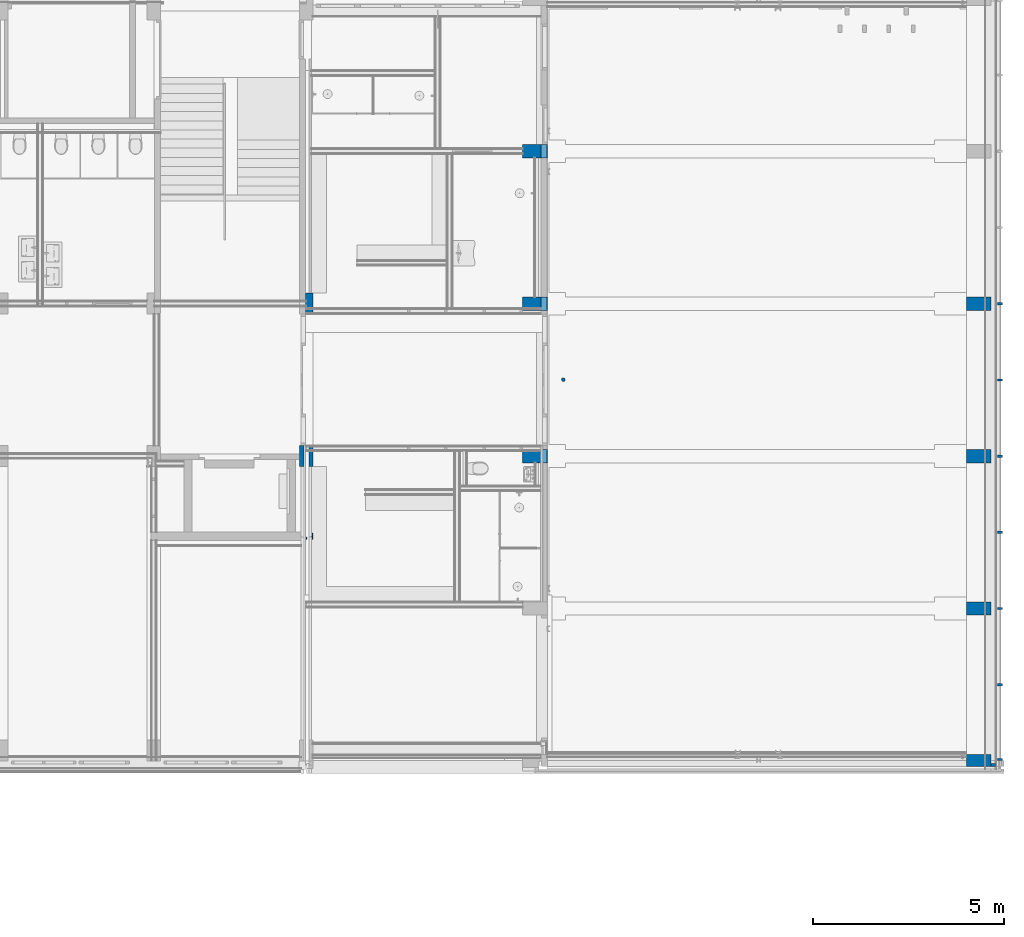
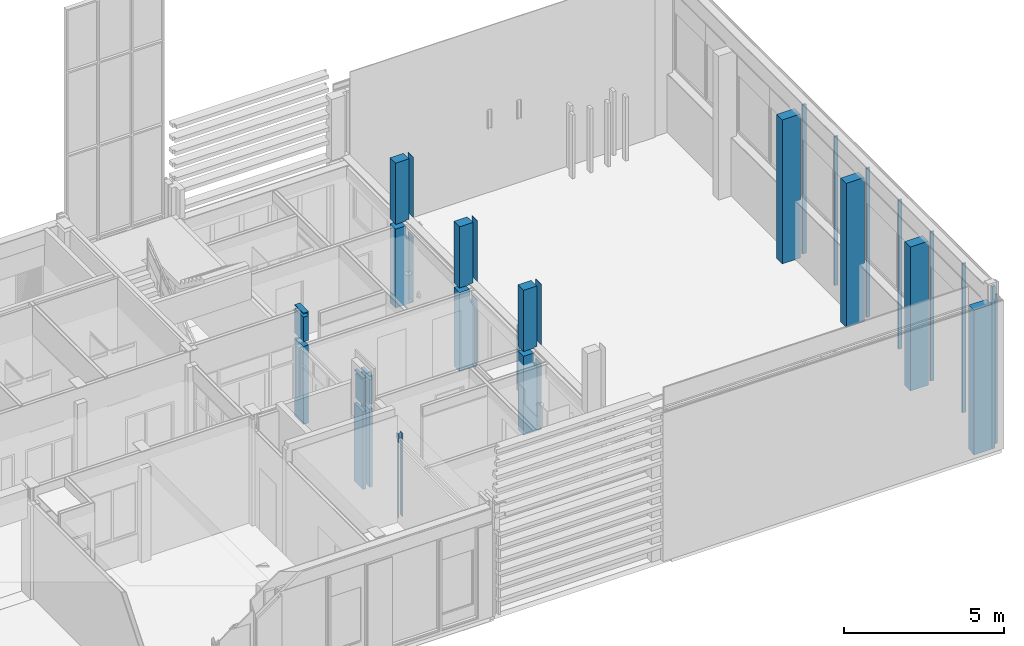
# One storey, part 7 of 109: 19 columns.
"""IFC2X3 building model written with IfcOpenShell, lengths in millimetres."""

from ifc_helpers import new_model, entity, si_unit, converted_unit, derived_unit, money_unit, direction, frame, origin_with_axes, place, context, subcontext, project, spatial, faceted_brep, material, type_object, element, save


model = new_model("IFC2X3")

# Units and contexts
model_context = context("Model", 3, precision=0.01, world=origin_with_axes(), true_north=direction((0.0, 1.0)))
body_context = subcontext(model_context, "Body", "Model", "MODEL_VIEW")
ifc_project = project(units=[si_unit("LENGTHUNIT", "METRE", prefix="MILLI"), si_unit("AREAUNIT", "SQUARE_METRE"), si_unit("VOLUMEUNIT", "CUBIC_METRE"), converted_unit("PLANEANGLEUNIT", "DEGREE", entity("IfcPlaneAngleMeasure", 0.0174532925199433), si_unit("PLANEANGLEUNIT", "RADIAN"), dimensions=[0, 0, 0, 0, 0, 0, 0]), money_unit("EUR"), converted_unit("TIMEUNIT", "Year", entity("IfcTimeMeasure", 31557600.0), si_unit("TIMEUNIT", "SECOND"), dimensions=[0, 0, 1, 0, 0, 0, 0]), si_unit("MASSUNIT", "GRAM", prefix="KILO"), si_unit("THERMODYNAMICTEMPERATUREUNIT", "DEGREE_CELSIUS"), si_unit("LUMINOUSINTENSITYUNIT", "LUMEN"), si_unit("ENERGYUNIT", "JOULE", prefix="MEGA"), derived_unit("THERMALCONDUCTANCEUNIT", [(si_unit("POWERUNIT", "WATT"), 1), (si_unit("LENGTHUNIT", "METRE"), -1), (si_unit("THERMODYNAMICTEMPERATUREUNIT", "KELVIN"), -1)]), derived_unit("SPECIFICHEATCAPACITYUNIT", [(si_unit("ENERGYUNIT", "JOULE"), 1), (si_unit("MASSUNIT", "GRAM", prefix="KILO"), -1), (si_unit("THERMODYNAMICTEMPERATUREUNIT", "KELVIN"), -1)]), derived_unit("MASSDENSITYUNIT", [(si_unit("MASSUNIT", "GRAM", prefix="KILO"), 1), (si_unit("VOLUMEUNIT", "CUBIC_METRE"), -1)])], contexts=[model_context])

# Site, building, storey
site_placement = place(None, origin_with_axes())
site = spatial("IfcSite", under=ifc_project, at=site_placement, Name="<site naam>", CompositionType="ELEMENT")
building_placement = place(site_placement, origin_with_axes())
building = spatial("IfcBuilding", under=site, at=building_placement, Name="<Naam gebouw>", CompositionType="ELEMENT")
storey_placement = place(building_placement, origin_with_axes())
storey = spatial("IfcBuildingStorey", under=building, at=storey_placement, Name="00 Begane grond", CompositionType="ELEMENT", Elevation=0.0)

# Columns
ifc_material_1 = material(Name="betonblok C")
column_type_1 = type_object("IfcColumnType", Name="betonblok C 350 x 550", PredefinedType="COLUMN")
column_1_placement = place(storey_placement, frame((52000.00000000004, 8000.000000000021, 0.0), z_axis=(0.0, 0.0, 1.0), x_axis=(1.0, 0.0, 0.0)))
element("IfcColumn", 1, at=column_1_placement, inside=storey, type_object=column_type_1, material=ifc_material_1, Name="28_Kolom_betonblok", ObjectType="COLUMN", context=body_context, shape_type="Brep", body=[
    faceted_brep([(-65.00000000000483, 274.9999999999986, 3158.0), (-136.1294846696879, 274.9999999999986, 3158.0), (-136.1294846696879, 274.9999999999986, 4100.0), (-65.00000000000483, 274.9999999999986, 4100.0), (-65.00000000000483, -275.0000000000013, 3158.0), (-136.1294846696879, -275.0000000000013, 3158.0), (-136.1294846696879, -275.0000000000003, 4100.0), (-65.00000000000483, -275.0000000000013, 4100.0)], [[[0, 1, 2, 3]], [[4, 5, 1, 0]], [[5, 6, 2, 1]], [[3, 2, 6, 7]], [[4, 0, 3, 7]], [[7, 6, 5, 4]]]),
    faceted_brep([(-174.9999999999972, 274.9999999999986, 0.0), (-174.9999999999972, 275.0000000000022, 2978.0), (-65.00000000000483, 274.9999999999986, 2978.0), (-65.00000000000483, 274.9999999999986, 0.0), (-174.9999999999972, -275.0000000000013, 0.0), (-174.9999999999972, -275.0000000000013, 2978.0), (-65.00000000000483, -275.0000000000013, 2978.0), (-65.00000000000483, -275.0000000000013, 0.0)], [[[0, 1, 2, 3]], [[4, 5, 1, 0]], [[5, 6, 2, 1]], [[3, 2, 6, 7]], [[4, 0, 3, 7]], [[7, 6, 5, 4]]]),
    faceted_brep([(64.99999999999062, 275.0000000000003, 0.0), (64.99999999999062, 275.0000000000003, 2978.0), (174.9999999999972, 275.0000000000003, 2978.0), (174.9999999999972, 275.0000000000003, 0.0), (64.99999999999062, -275.0000000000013, 0.0), (64.99999999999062, -275.0000000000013, 2978.0), (174.9999999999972, -275.0000000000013, 2978.0), (174.9999999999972, -275.0000000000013, 0.0)], [[[0, 1, 2, 3]], [[4, 5, 1, 0]], [[5, 6, 2, 1]], [[3, 2, 6, 7]], [[3, 7, 4, 0]], [[7, 6, 5, 4]]]),
    faceted_brep([(-65.00000000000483, -275.0000000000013, 4250.0), (-65.00000000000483, -275.0000000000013, 4220.0), (-65.00000000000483, 274.9999999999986, 4220.0), (-65.00000000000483, 274.9999999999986, 4250.0), (-174.9999999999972, -275.0000000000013, 4250.0), (-174.9999999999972, -275.0000000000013, 4220.0), (-174.9999999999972, 274.9999999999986, 4220.0), (-174.9999999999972, 274.9999999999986, 4250.0)], [[[0, 1, 2, 3]], [[4, 5, 1, 0]], [[5, 6, 2, 1]], [[3, 2, 6, 7]], [[7, 4, 0, 3]], [[7, 6, 5, 4]]]),
    faceted_brep([(64.99999999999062, 275.0000000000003, 3158.0), (64.99999999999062, 275.0000000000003, 4100.0), (174.3999999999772, 275.0000000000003, 4100.0), (174.3999999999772, 275.0000000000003, 4220.0), (64.99999999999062, 275.0000000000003, 4220.0), (64.99999999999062, 275.0000000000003, 4250.0), (174.9999999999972, 275.0000000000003, 4250.0), (174.9999999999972, 275.0000000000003, 3158.0), (64.99999999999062, -275.0000000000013, 3158.0), (64.99999999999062, -275.0000000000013, 4100.0), (174.3999999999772, -275.0000000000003, 4100.0), (174.3999999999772, -275.0000000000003, 4220.0), (64.99999999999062, -275.0000000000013, 4220.0), (64.99999999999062, -275.0000000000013, 4250.0), (174.9999999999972, -275.0000000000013, 4250.0), (174.9999999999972, -275.0000000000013, 3158.0)], [[[0, 1, 2, 3, 4, 5, 6, 7]], [[8, 9, 1, 0]], [[10, 2, 1, 9]], [[11, 3, 2, 10]], [[12, 4, 3, 11]], [[5, 4, 12, 13]], [[14, 6, 5, 13]], [[14, 15, 7, 6]], [[8, 0, 7, 15]], [[11, 10, 9, 8, 15, 14, 13, 12]]]),
])
column_2_placement = place(storey_placement, frame((52000.00000000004, 12000.00000000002, 0.0), z_axis=(0.0, 0.0, 1.0), x_axis=(1.0, 0.0, 0.0)))
element("IfcColumn", 2, at=column_2_placement, inside=storey, type_object=column_type_1, material=ifc_material_1, Name="28_Kolom_betonblok", ObjectType="COLUMN", context=body_context, shape_type="Brep", body=[
    faceted_brep([(-15.00000000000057, 274.9999999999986, 0.0), (-15.00000000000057, 274.9999999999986, 2978.0), (174.9999999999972, 275.0000000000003, 2978.0), (174.9999999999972, 275.0000000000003, 0.0), (-15.00000000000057, -275.0000000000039, 0.0), (-15.00000000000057, -275.0000000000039, 2978.0), (174.9999999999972, -275.0000000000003, 2978.0), (174.9999999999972, -275.0000000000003, 0.0)], [[[0, 1, 2, 3]], [[4, 5, 1, 0]], [[5, 6, 2, 1]], [[3, 2, 6, 7]], [[3, 7, 4, 0]], [[7, 6, 5, 4]]]),
    faceted_brep([(-15.00000000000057, 274.9999999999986, 3158.0), (-15.00000000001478, 274.9999999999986, 4100.0), (174.3999999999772, 275.0000000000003, 4100.0), (174.3999999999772, 275.0000000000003, 4220.0), (-15.00000000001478, 274.9999999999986, 4220.0), (-15.00000000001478, 274.9999999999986, 4250.0), (174.9999999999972, 275.0000000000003, 4250.0), (174.9999999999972, 275.0000000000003, 3158.0), (-15.00000000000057, -275.0000000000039, 3158.0), (-15.00000000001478, -274.9999999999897, 4100.0), (174.3999999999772, -275.0000000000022, 4100.0), (174.3999999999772, -275.0000000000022, 4220.0), (-15.00000000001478, -274.9999999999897, 4220.0), (-15.00000000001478, -274.9999999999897, 4250.0), (174.9999999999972, -275.0000000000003, 4250.0), (174.9999999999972, -275.0000000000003, 3158.0)], [[[0, 1, 2, 3, 4, 5, 6, 7]], [[8, 9, 1, 0]], [[10, 2, 1, 9]], [[11, 3, 2, 10]], [[12, 4, 3, 11]], [[5, 4, 12, 13]], [[14, 6, 5, 13]], [[14, 15, 7, 6]], [[8, 0, 7, 15]], [[11, 10, 9, 8, 15, 14, 13, 12]]]),
])
column_type_2 = type_object("IfcColumnType", Name="betonblok C 350 x 650", PredefinedType="COLUMN")
column_3_placement = place(storey_placement, frame((69650.0, 0.0, -30.0), z_axis=(0.0, 0.0, 1.0), x_axis=(0.0, -1.0, 0.0)))
element("IfcColumn", 3, at=column_3_placement, inside=storey, type_object=column_type_2, material=ifc_material_1, Name="28_Kolom_betonblok", ObjectType="COLUMN", context=body_context, shape_type="Brep", body=[
    faceted_brep([(-175.0000000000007, -325.0000000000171, 30.0), (-175.0000000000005, -325.0000000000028, 5524.999999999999), (-175.0000000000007, 325.0000000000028, 5524.999999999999), (-175.0000000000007, 325.0000000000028, 30.0), (149.0893218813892, -325.0000000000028, 0.0), (149.0893224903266, -325.0000000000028, 5524.999999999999), (-10.91067811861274, -325.0000000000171, 30.0), (-10.91067811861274, -325.0000000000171, 0.0), (149.0893218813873, 325.0000000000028, 5524.999999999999), (149.0893218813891, 325.0000000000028, 0.0), (-10.91067811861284, 325.0000000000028, 0.0), (-10.91067811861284, 325.0000000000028, 30.0)], [[[0, 1, 2, 3]], [[4, 5, 1, 0, 6, 7]], [[5, 8, 2, 1]], [[3, 2, 8, 9, 10, 11]], [[11, 6, 0, 3]], [[9, 8, 5, 4]], [[7, 6, 11, 10]], [[9, 4, 7, 10]]]),
])
column_4_placement = place(storey_placement, frame((69650.00000000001, 8000.000000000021, -30.0), z_axis=(0.0, 0.0, 1.0), x_axis=(0.0, -1.0, 0.0)))
element("IfcColumn", 4, at=column_4_placement, inside=storey, type_object=column_type_2, material=ifc_material_1, Name="28_Kolom_betonblok", ObjectType="COLUMN", context=body_context, shape_type="Brep", body=[
    faceted_brep([(-175.0000000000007, -325.0000000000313, 30.0), (-174.9999999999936, -325.0000000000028, 5524.999999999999), (-174.9999999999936, 325.0000000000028, 5524.999999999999), (-175.0000000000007, 325.0000000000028, 30.0), (174.9999999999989, -325.0000000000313, 30.0), (175.0000000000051, -325.0000000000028, 5524.999999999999), (175.0000000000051, 325.0000000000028, 5524.999999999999), (174.9999999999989, 325.0000000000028, 30.0)], [[[0, 1, 2, 3]], [[4, 5, 1, 0]], [[5, 6, 2, 1]], [[3, 2, 6, 7]], [[7, 4, 0, 3]], [[7, 6, 5, 4]]]),
])
column_5_placement = place(storey_placement, frame((69650.0, 4000.000000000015, -30.0), z_axis=(0.0, 0.0, 1.0), x_axis=(0.0, -1.0, 0.0)))
element("IfcColumn", 5, at=column_5_placement, inside=storey, type_object=column_type_2, material=ifc_material_1, Name="28_Kolom_betonblok", ObjectType="COLUMN", context=body_context, shape_type="Brep", body=[
    faceted_brep([(-175.0000000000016, -325.0000000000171, 30.0), (-175.0000000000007, -325.0000000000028, 5524.999999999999), (-175.0000000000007, 325.0000000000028, 5524.999999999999), (-174.9999999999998, 325.0000000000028, 30.0), (175.0000000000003, -325.0000000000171, 30.0), (175.0000000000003, -325.0000000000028, 5524.999999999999), (175.0000000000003, 325.0000000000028, 5524.999999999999), (175.0000000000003, 325.0000000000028, 30.0)], [[[0, 1, 2, 3]], [[4, 5, 1, 0]], [[5, 6, 2, 1]], [[3, 2, 6, 7]], [[7, 4, 0, 3]], [[7, 6, 5, 4]]]),
])
column_6_placement = place(storey_placement, frame((69650.00000000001, 12000.00000000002, -30.0), z_axis=(0.0, 0.0, 1.0), x_axis=(0.0, -1.0, 0.0)))
element("IfcColumn", 6, at=column_6_placement, inside=storey, type_object=column_type_2, material=ifc_material_1, Name="28_Kolom_betonblok", ObjectType="COLUMN", context=body_context, shape_type="Brep", body=[
    faceted_brep([(-175.0000000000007, -325.0000000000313, 30.0), (-174.9999999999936, -325.0000000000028, 5524.999999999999), (-174.9999999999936, 325.0000000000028, 5524.999999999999), (-175.0000000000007, 325.0000000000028, 30.0), (175.0000000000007, -325.0000000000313, 30.0), (175.000000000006, -325.0000000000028, 5524.999999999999), (175.000000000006, 325.0000000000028, 5524.999999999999), (175.0000000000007, 325.0000000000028, 30.0)], [[[0, 1, 2, 3]], [[4, 5, 1, 0]], [[5, 6, 2, 1]], [[3, 2, 6, 7]], [[7, 4, 0, 3]], [[7, 6, 5, 4]]]),
])
column_7_placement = place(storey_placement, frame((58000.00000000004, 8000.000000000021, -30.0), z_axis=(0.0, 0.0, 1.0), x_axis=(0.0, -1.0, 0.0)))
element("IfcColumn", 7, at=column_7_placement, inside=storey, type_object=column_type_2, material=ifc_material_1, Name="28_Kolom_betonblok", ObjectType="COLUMN", context=body_context, shape_type="Brep", body=[
    faceted_brep([(-175.0000000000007, -325.0000000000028, 3008.0), (-175.0000000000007, 44.99999999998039, 3008.0), (-175.0000000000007, 44.99999999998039, 2517.5), (-175.0000000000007, 157.7828447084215, 2517.5), (-175.0000000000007, 157.7828447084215, 30.0), (-175.0000000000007, 317.7828447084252, 29.99999916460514), (-175.0000000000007, 317.7828447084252, 0.0), (-175.0000000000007, -325.0000000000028, 0.0), (174.9999999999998, -325.0000000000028, 3008.0), (174.999999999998, 44.99999999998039, 3008.0), (174.999999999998, 44.99999999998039, 2517.5), (174.9999999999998, 157.7828447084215, 2517.5), (174.9999999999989, 157.7828447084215, 30.0), (174.9999999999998, 317.7828447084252, 29.99999914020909), (174.9999999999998, 317.7828447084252, 0.0), (174.9999999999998, -325.0000000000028, 0.0)], [[[0, 1, 2, 3, 4, 5, 6, 7]], [[8, 9, 1, 0]], [[10, 2, 1, 9]], [[10, 11, 3, 2]], [[4, 3, 11, 12]], [[4, 12, 13, 5]], [[13, 14, 6, 5]], [[15, 7, 6, 14]], [[7, 15, 8, 0]], [[11, 10, 9, 8, 15, 14, 13, 12]]]),
    faceted_brep([(-175.0000000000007, -325.0000000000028, 3188.0), (-174.9999999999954, -325.0000000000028, 5524.999999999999), (-174.9999999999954, 157.7828447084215, 5524.999999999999), (-175.0000000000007, 157.7828447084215, 3217.5), (-175.0000000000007, 44.99999999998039, 3217.5), (-175.0000000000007, 44.99999999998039, 3188.0), (174.9999999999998, -325.0000000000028, 3188.0), (175.0000000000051, -325.0000000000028, 5524.999999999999), (175.0000000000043, 157.7828447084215, 5524.999999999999), (174.9999999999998, 157.7828447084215, 3217.5), (174.999999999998, 44.99999999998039, 3217.5), (174.9999999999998, 44.99999999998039, 3188.0)], [[[0, 1, 2, 3, 4, 5]], [[6, 7, 1, 0]], [[7, 8, 2, 1]], [[3, 2, 8, 9]], [[10, 4, 3, 9]], [[11, 5, 4, 10]], [[0, 5, 11, 6]], [[9, 8, 7, 6, 11, 10]]]),
    faceted_brep([(-175.0000000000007, 317.7828447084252, 29.99999916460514), (-175.0000000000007, 317.7828447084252, 2517.5), (-175.0000000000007, 324.9999999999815, 2517.5), (-175.0000000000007, 325.0000000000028, 30.0), (174.9999999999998, 317.7828447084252, 29.99999914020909), (174.9999999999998, 317.7828447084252, 2517.5), (174.9999999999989, 324.9999999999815, 2517.5), (174.9999999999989, 325.0000000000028, 30.0)], [[[0, 1, 2, 3]], [[4, 5, 1, 0]], [[5, 6, 2, 1]], [[3, 2, 6, 7]], [[7, 4, 0, 3]], [[7, 6, 5, 4]]]),
    faceted_brep([(-175.0000000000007, 317.7828447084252, 3217.5), (-174.9999999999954, 317.7828447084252, 5524.999999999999), (-174.9999999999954, 325.0000000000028, 5524.999999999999), (-175.0000000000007, 324.9999999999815, 3217.5), (174.9999999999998, 317.7828447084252, 3217.5), (175.0000000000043, 317.7828447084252, 5524.999999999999), (175.0000000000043, 325.0000000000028, 5524.999999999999), (174.9999999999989, 324.9999999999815, 3217.5)], [[[0, 1, 2, 3]], [[4, 5, 1, 0]], [[5, 6, 2, 1]], [[3, 2, 6, 7]], [[4, 0, 3, 7]], [[7, 6, 5, 4]]]),
])
column_8_placement = place(storey_placement, frame((58000.00000000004, 12000.00000000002, -30.0), z_axis=(0.0, 0.0, 1.0), x_axis=(0.0, -1.0, 0.0)))
element("IfcColumn", 8, at=column_8_placement, inside=storey, type_object=column_type_2, material=ifc_material_1, Name="28_Kolom_betonblok", ObjectType="COLUMN", context=body_context, shape_type="Brep", body=[
    faceted_brep([(-175.0000000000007, -325.0000000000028, 3008.0), (-174.9999999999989, 44.99999999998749, 3008.0), (-175.0000000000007, 44.99999999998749, 2517.5), (-175.0000000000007, 157.7828447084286, 2517.5), (-175.0000000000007, 157.7828447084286, 30.0), (-175.0000000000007, 317.7828447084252, 29.99999944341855), (-175.0000000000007, 317.7828447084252, 0.0), (-175.0000000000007, -325.0000000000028, 0.0), (175.0000000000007, -325.0000000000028, 3008.0), (175.0000000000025, 44.99999999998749, 3008.0), (175.0000000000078, 44.99999999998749, 2517.5), (175.0000000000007, 157.7828447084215, 2517.5), (175.0000000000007, 157.7828447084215, 30.0), (175.0000000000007, 317.7828447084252, 29.99999941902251), (175.0000000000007, 317.7828447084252, 0.0), (175.0000000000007, -325.0000000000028, 0.0)], [[[0, 1, 2, 3, 4, 5, 6, 7]], [[8, 9, 1, 0]], [[10, 2, 1, 9]], [[10, 11, 3, 2]], [[4, 3, 11, 12]], [[4, 12, 13, 5]], [[13, 14, 6, 5]], [[15, 7, 6, 14]], [[7, 15, 8, 0]], [[11, 10, 9, 8, 15, 14, 13, 12]]]),
    faceted_brep([(-175.0000000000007, -325.0000000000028, 3188.0), (-174.9999999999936, -325.0000000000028, 5524.999999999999), (-174.9999999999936, 157.7828447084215, 5524.999999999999), (-175.0000000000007, 157.7828447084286, 3217.5), (-175.0000000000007, 44.99999999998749, 3217.5), (-174.9999999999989, 44.99999999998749, 3188.0), (175.0000000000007, -325.0000000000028, 3188.0), (175.0000000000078, -325.0000000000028, 5524.999999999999), (175.0000000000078, 157.7828447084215, 5524.999999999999), (175.0000000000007, 157.7828447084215, 3217.5), (175.0000000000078, 44.99999999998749, 3217.5), (175.0000000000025, 44.99999999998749, 3188.0)], [[[0, 1, 2, 3, 4, 5]], [[6, 7, 1, 0]], [[7, 8, 2, 1]], [[3, 2, 8, 9]], [[10, 4, 3, 9]], [[11, 5, 4, 10]], [[0, 5, 11, 6]], [[9, 8, 7, 6, 11, 10]]]),
    faceted_brep([(-175.0000000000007, 317.7828447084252, 29.99999944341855), (-175.0000000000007, 317.7828447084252, 2517.5), (-175.0000000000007, 324.9999999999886, 2517.5), (-175.0000000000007, 325.0000000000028, 30.0), (175.0000000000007, 317.7828447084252, 29.99999941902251), (175.0000000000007, 317.7828447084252, 2517.5), (175.0000000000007, 324.9999999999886, 2517.5), (175.0000000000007, 325.0000000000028, 30.0)], [[[0, 1, 2, 3]], [[4, 5, 1, 0]], [[5, 6, 2, 1]], [[3, 2, 6, 7]], [[7, 4, 0, 3]], [[7, 6, 5, 4]]]),
    faceted_brep([(-175.0000000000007, 317.7828447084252, 3217.5), (-174.9999999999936, 317.7828447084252, 5524.999999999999), (-174.9999999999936, 324.9999999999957, 5524.999999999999), (-175.0000000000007, 324.9999999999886, 3217.5), (175.0000000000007, 317.7828447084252, 3217.5), (175.0000000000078, 317.7828447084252, 5524.999999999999), (175.0000000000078, 325.0000000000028, 5524.999999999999), (174.9999999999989, 324.9999999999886, 3217.5)], [[[0, 1, 2, 3]], [[4, 5, 1, 0]], [[5, 6, 2, 1]], [[3, 2, 6, 7]], [[4, 0, 3, 7]], [[7, 6, 5, 4]]]),
])
column_9_placement = place(storey_placement, frame((58000.00000000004, 15999.99999999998, -30.0), z_axis=(0.0, 0.0, 1.0), x_axis=(0.0, -1.0, 0.0)))
element("IfcColumn", 9, at=column_9_placement, inside=storey, type_object=column_type_2, material=ifc_material_1, Name="28_Kolom_betonblok", ObjectType="COLUMN", context=body_context, shape_type="Brep", body=[
    faceted_brep([(-175.0000000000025, -325.0000000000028, 3008.0), (-175.000000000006, 44.99999999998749, 3008.0), (-175.0000000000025, 44.99999999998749, 2517.5), (-175.0000000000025, 157.7828447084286, 2517.5), (-175.0000000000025, 157.7828447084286, 30.0), (-175.0000000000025, 317.7828447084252, 29.99999972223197), (-175.0000000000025, 317.7828447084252, 0.0), (-175.0000000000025, -325.0000000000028, 0.0), (175.0000000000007, -325.0000000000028, 3008.0), (175.0000000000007, 44.99999999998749, 3008.0), (175.0000000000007, 44.99999999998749, 2517.5), (175.0000000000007, 157.7828447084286, 2517.5), (175.0000000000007, 157.7828447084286, 30.0), (175.0000000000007, 317.7828447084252, 29.99999969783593), (175.0000000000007, 317.7828447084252, 0.0), (175.0000000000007, -325.0000000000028, 0.0)], [[[0, 1, 2, 3, 4, 5, 6, 7]], [[8, 9, 1, 0]], [[10, 2, 1, 9]], [[10, 11, 3, 2]], [[4, 3, 11, 12]], [[4, 12, 13, 5]], [[13, 14, 6, 5]], [[15, 7, 6, 14]], [[7, 15, 8, 0]], [[11, 10, 9, 8, 15, 14, 13, 12]]]),
    faceted_brep([(-175.0000000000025, -325.0000000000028, 3188.0), (-175.000000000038, -325.0000000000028, 5524.999999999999), (-175.000000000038, 157.7828447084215, 5524.999999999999), (-175.0000000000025, 157.7828447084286, 3217.5), (-175.0000000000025, 44.99999999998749, 3217.5), (-175.000000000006, 44.99999999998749, 3188.0), (175.0000000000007, -325.0000000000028, 3188.0), (174.9999999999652, -325.0000000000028, 5524.999999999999), (174.9999999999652, 157.7828447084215, 5524.999999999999), (175.0000000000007, 157.7828447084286, 3217.5), (175.0000000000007, 44.99999999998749, 3217.5), (175.0000000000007, 44.99999999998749, 3188.0)], [[[0, 1, 2, 3, 4, 5]], [[6, 7, 1, 0]], [[7, 8, 2, 1]], [[3, 2, 8, 9]], [[10, 4, 3, 9]], [[11, 5, 4, 10]], [[0, 5, 11, 6]], [[9, 8, 7, 6, 11, 10]]]),
    faceted_brep([(-175.0000000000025, 317.7828447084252, 29.99999972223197), (-175.0000000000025, 317.7828447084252, 2517.5), (-175.0000000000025, 324.9999999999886, 2517.5), (-175.0000000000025, 325.0000000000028, 30.0), (175.0000000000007, 317.7828447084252, 29.99999969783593), (175.0000000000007, 317.7828447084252, 2517.5), (175.0000000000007, 324.9999999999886, 2517.5), (175.0000000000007, 325.0000000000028, 30.0)], [[[0, 1, 2, 3]], [[4, 5, 1, 0]], [[5, 6, 2, 1]], [[3, 2, 6, 7]], [[7, 4, 0, 3]], [[7, 6, 5, 4]]]),
    faceted_brep([(-175.0000000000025, 317.7828447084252, 3217.5), (-175.000000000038, 317.7828447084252, 5524.999999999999), (-175.000000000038, 325.0000000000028, 5524.999999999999), (-175.0000000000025, 324.9999999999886, 3217.5), (175.0000000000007, 317.7828447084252, 3217.5), (174.9999999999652, 317.7828447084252, 5524.999999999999), (174.9999999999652, 325.0000000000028, 5524.999999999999), (175.0000000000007, 324.9999999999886, 3217.5)], [[[0, 1, 2, 3]], [[4, 5, 1, 0]], [[5, 6, 2, 1]], [[3, 2, 6, 7]], [[4, 0, 3, 7]], [[7, 6, 5, 4]]]),
])
ifc_material_2 = material(Name="aluminium")
column_type_3 = type_object("IfcColumnType", Name="aluminium 60 x 130", PredefinedType="COLUMN")
for number, where, z_axis, x_axis, name in (
    (10, (70205.00000000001, 11997.00000014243, 0.0), (0.0, 0.0, 1.0), (0.0, 1.0, 0.0), "41_Kolom_aluminium"),
    (11, (70205.00000000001, 9999.955330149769, 0.0), (0.0, 0.0, 1.0), (0.0, 1.0, 0.0), "41_Kolom_aluminium"),
):
    element("IfcColumn", number, at=place(storey_placement, frame(where, z_axis=z_axis, x_axis=x_axis)), inside=storey, type_object=column_type_3, material=ifc_material_2, Name=name, ObjectType="COLUMN", context=body_context, shape_type="Brep", body=[
        faceted_brep([(-30.00000000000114, -64.99999999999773, 5685.000037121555), (-30.00000000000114, -64.99999999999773, 0.0), (29.99999999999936, -64.99999999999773, 0.0), (29.99999999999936, -64.99999999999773, 5685.000037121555), (-30.00000000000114, 64.99999999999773, 5685.000037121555), (-30.00000000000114, 64.99999999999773, 0.0), (29.99999999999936, 64.99999999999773, 0.0), (29.99999999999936, 64.99999999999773, 5685.000037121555)], [[[0, 1, 2, 3]], [[4, 5, 1, 0]], [[2, 1, 5, 6]], [[3, 2, 6, 7]], [[4, 0, 3, 7]], [[7, 6, 5, 4]]]),
    ])
column_10_placement = place(storey_placement, frame((70205.00000000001, 8000.000000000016, 0.0), z_axis=(0.0, 0.0, 1.0), x_axis=(0.0, 1.0, 0.0)))
element("IfcColumn", 12, at=column_10_placement, inside=storey, type_object=column_type_3, material=ifc_material_2, Name="41_Kolom_aluminium", ObjectType="COLUMN", context=body_context, shape_type="Brep", body=[
    faceted_brep([(-29.99999999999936, -64.99999999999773, 5685.000037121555), (-29.99999999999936, -64.99999999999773, 0.0), (29.99999999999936, -64.99999999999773, 0.0), (29.99999999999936, -64.99999999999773, 5685.000037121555), (-29.99999999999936, 64.99999999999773, 5685.000037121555), (-29.99999999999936, 64.99999999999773, 0.0), (29.99999999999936, 64.99999999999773, 0.0), (29.99999999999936, 64.99999999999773, 5685.000037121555)], [[[0, 1, 2, 3]], [[4, 5, 1, 0]], [[2, 1, 5, 6]], [[3, 2, 6, 7]], [[4, 0, 3, 7]], [[7, 6, 5, 4]]]),
])
column_11_placement = place(storey_placement, frame((70205.00000000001, 3999.999999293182, 0.0), z_axis=(0.0, 0.0, 1.0), x_axis=(0.0, 1.0, 0.0)))
element("IfcColumn", 13, at=column_11_placement, inside=storey, type_object=column_type_3, material=ifc_material_2, Name="41_Kolom_aluminium", ObjectType="COLUMN", context=body_context, shape_type="Brep", body=[
    faceted_brep([(-30.00000000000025, -64.99999999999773, 5685.000037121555), (-30.00000000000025, -64.99999999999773, 0.0), (29.9999999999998, -64.99999999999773, 0.0), (29.9999999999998, -64.99999999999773, 5685.000037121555), (-30.00000000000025, 64.99999999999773, 5685.000037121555), (-30.00000000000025, 64.99999999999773, 0.0), (29.9999999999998, 64.99999999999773, 0.0), (29.9999999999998, 64.99999999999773, 5685.000037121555)], [[[0, 1, 2, 3]], [[4, 5, 1, 0]], [[2, 1, 5, 6]], [[3, 2, 6, 7]], [[4, 0, 3, 7]], [[7, 6, 5, 4]]]),
])
column_12_placement = place(storey_placement, frame((70205.00000000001, 5999.999999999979, 0.0), z_axis=(0.0, 0.0, 1.0), x_axis=(0.0, 1.0, 0.0)))
element("IfcColumn", 14, at=column_12_placement, inside=storey, type_object=column_type_3, material=ifc_material_2, Name="41_Kolom_aluminium", ObjectType="COLUMN", context=body_context, shape_type="Brep", body=[
    faceted_brep([(-29.99999999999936, -64.99999999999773, 5685.000037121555), (-29.99999999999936, -64.99999999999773, 0.0), (30.00000000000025, -64.99999999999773, 0.0), (30.00000000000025, -64.99999999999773, 5685.000037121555), (-29.99999999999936, 64.99999999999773, 5685.000037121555), (-29.99999999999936, 64.99999999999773, 0.0), (30.00000000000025, 64.99999999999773, 0.0), (30.00000000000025, 64.99999999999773, 5685.000037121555)], [[[0, 1, 2, 3]], [[4, 5, 1, 0]], [[2, 1, 5, 6]], [[3, 2, 6, 7]], [[4, 0, 3, 7]], [[7, 6, 5, 4]]]),
])
column_13_placement = place(storey_placement, frame((70205.00000000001, 1999.999999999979, 0.0), z_axis=(0.0, 0.0, 1.0), x_axis=(0.0, 1.0, 0.0)))
element("IfcColumn", 15, at=column_13_placement, inside=storey, type_object=column_type_3, material=ifc_material_2, Name="41_Kolom_aluminium", ObjectType="COLUMN", context=body_context, shape_type="Brep", body=[
    faceted_brep([(-30.00000000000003, -64.99999999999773, 5685.000037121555), (-30.00000000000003, -64.99999999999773, 0.0), (30.00000000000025, -64.99999999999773, 0.0), (30.00000000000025, -64.99999999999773, 5685.000037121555), (-30.00000000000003, 64.99999999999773, 5685.000037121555), (-30.00000000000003, 64.99999999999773, 0.0), (30.00000000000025, 64.99999999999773, 0.0), (30.00000000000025, 64.99999999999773, 5685.000037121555)], [[[0, 1, 2, 3]], [[4, 5, 1, 0]], [[2, 1, 5, 6]], [[3, 2, 6, 7]], [[4, 0, 3, 7]], [[7, 6, 5, 4]]]),
])
column_14_placement = place(storey_placement, frame((70205.00000000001, 40.91067811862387, 0.0), z_axis=(0.0, 0.0, 1.0), x_axis=(0.0, 1.0, 0.0)))
element("IfcColumn", 16, at=column_14_placement, inside=storey, type_object=column_type_3, material=ifc_material_2, Name="41_Kolom_aluminium", ObjectType="COLUMN", context=body_context, shape_type="Brep", body=[
    faceted_brep([(30.00000000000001, 64.99999999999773, 5685.000037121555), (30.00000000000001, 64.99999999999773, 0.0), (-30.0, 64.99999999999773, 0.0), (-30.0, 64.99999999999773, 5685.000037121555), (29.99999999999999, -64.99999999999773, 5685.000037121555), (29.99999999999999, -64.99999999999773, 0.0), (-30.0, -64.99999999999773, 0.0), (-30.0, -64.99999999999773, 5685.000037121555)], [[[0, 1, 2, 3]], [[4, 5, 1, 0]], [[2, 1, 5, 6]], [[3, 2, 6, 7]], [[4, 0, 3, 7]], [[7, 6, 5, 4]]]),
])
ifc_material_3 = material(Name="staal C")
column_type_4 = type_object("IfcColumnType", Name="Profiel H algemeen 160 x 160", PredefinedType="COLUMN")
column_15_placement = place(storey_placement, frame((52084.99988938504, 5898.000000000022, 0.0), z_axis=(0.0, 0.0, 1.0), x_axis=(0.0, 1.0, 0.0)))
element("IfcColumn", 17, at=column_15_placement, inside=storey, type_object=column_type_4, material=ifc_material_3, Name="28_Kolom_Profiel", ObjectType="COLUMN", context=body_context, shape_type="Brep", body=[
    faceted_brep([(-3.999999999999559, -50.00011061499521, 2978.0), (-3.999999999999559, 66.99954180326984, 2978.0), (-27.00000000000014, 66.99954180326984, 2978.0), (-27.00000000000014, 80.00011061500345, 2978.0), (80.0000683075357, 80.00011061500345, 2978.0), (80.00005258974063, 66.99954180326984, 2978.0), (4.000000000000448, 66.99954180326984, 2978.0), (3.999999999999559, -50.00011061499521, 2978.0), (-4.000000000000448, -50.00011061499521, 0.0), (-4.000000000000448, -66.99954180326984, 0.0), (-4.000000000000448, -66.99954180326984, 3188.0), (-3.999999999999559, 66.99954180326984, 3188.0), (-80.00005258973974, 66.99954180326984, 3188.0), (-80.00005258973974, 66.99954180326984, 0.0), (-27.00000000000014, 66.99954180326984, 0.0), (-27.00000000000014, 80.00011061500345, 0.0), (-80.0000683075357, 80.00011061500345, 0.0), (-80.0000683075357, 80.00011061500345, 3188.0), (80.0000683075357, 80.00011061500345, 3188.0), (80.00005258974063, 66.99954180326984, 3188.0), (4.000000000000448, 66.99954180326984, 3188.0), (3.999999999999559, -66.99954180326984, 3188.0), (3.999999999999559, -66.99954180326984, 0.0), (3.999999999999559, -50.00011061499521, 0.0), (80.00005258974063, -66.99954180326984, 0.0), (80.0000683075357, -80.00011061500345, 0.0), (-80.0000683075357, -80.00011061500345, 0.0), (-80.00005258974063, -66.99954180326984, 0.0), (-80.00005258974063, -66.99954180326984, 3188.0), (-80.0000683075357, -80.00011061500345, 3188.0), (80.0000683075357, -80.00011061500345, 3188.0), (80.00005258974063, -66.99954180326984, 3188.0)], [[[0, 1, 2, 3, 4, 5, 6, 7]], [[1, 0, 8, 9, 10, 11]], [[2, 1, 11, 12, 13, 14]], [[2, 14, 15, 3]], [[3, 15, 16, 17, 18, 4]], [[5, 4, 18, 19]], [[6, 5, 19, 20]], [[6, 20, 21, 22, 23, 7]], [[7, 23, 8, 0]], [[8, 23, 22, 24, 25, 26, 27, 9]], [[28, 10, 9, 27]], [[10, 28, 29, 30, 31, 21, 20, 19, 18, 17, 12, 11]], [[12, 17, 16, 13]], [[15, 14, 13, 16]], [[21, 31, 24, 22]], [[31, 30, 25, 24]], [[30, 29, 26, 25]], [[29, 28, 27, 26]]]),
])
ifc_material_4 = material(Name="ALG - ALGEMEEN")
column_type_5 = type_object("IfcColumnType", Name="ALG - ALGEMEEN D100", PredefinedType="COLUMN")
column_16_placement = place(storey_placement, frame((58745.02500000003, 10005.4553390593, 0.0), z_axis=(0.0, 0.0, 1.0), x_axis=(1.0, 0.0, 0.0)))
element("IfcColumn", 18, at=column_16_placement, inside=storey, type_object=column_type_5, material=ifc_material_4, Name="77_Kolom_ALG", ObjectType="COLUMN", context=body_context, shape_type="Brep", body=[
    faceted_brep([(46.19397662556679, -19.13417161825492, 2487.5), (46.19397662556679, -19.13417161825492, 2.999999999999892), (49.99999999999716, 0.0, 2.999999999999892), (49.99999999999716, 0.0, 2487.5), (35.35533905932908, -35.35533905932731, 2487.5), (35.35533905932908, -35.35533905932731, 2.999999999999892), (35.35533905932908, 35.35533905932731, 2.999999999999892), (46.19397662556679, 19.13417161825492, 2.999999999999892), (19.13417161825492, -46.19397662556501, 2.999999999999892), (0.0, -50.00000000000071, 2.999999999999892), (-19.13417161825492, -46.19397662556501, 2.999999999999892), (-35.35533905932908, -35.35533905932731, 2.999999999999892), (-46.19397662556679, -19.13417161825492, 2.999999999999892), (-49.99999999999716, 0.0, 2.999999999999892), (-46.19397662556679, 19.13417161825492, 2.999999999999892), (-35.35533905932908, 35.35533905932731, 2.999999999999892), (-19.13417161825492, 46.19397662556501, 2.999999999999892), (0.0, 50.00000000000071, 2.999999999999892), (19.13417161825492, 46.19397662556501, 2.999999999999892), (46.19397662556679, 19.13417161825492, 2487.5), (-35.35533905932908, 35.35533905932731, 2487.5), (-46.19397662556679, 19.13417161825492, 2487.5), (-49.99999999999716, 0.0, 2487.5), (-46.19397662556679, -19.13417161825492, 2487.5), (-35.35533905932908, -35.35533905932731, 2487.5), (-19.13417161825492, -46.19397662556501, 2487.5), (0.0, -50.00000000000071, 2487.5), (19.13417161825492, -46.19397662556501, 2487.5), (35.35533905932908, 35.35533905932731, 2487.5), (19.13417161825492, 46.19397662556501, 2487.5), (0.0, 50.00000000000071, 2487.5), (-19.13417161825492, 46.19397662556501, 2487.5)], [[[0, 1, 2, 3]], [[4, 5, 1, 0]], [[6, 7, 2, 1, 5, 8, 9, 10, 11, 12, 13, 14, 15, 16, 17, 18]], [[3, 2, 7, 19]], [[20, 21, 22, 23, 24, 25, 26, 27, 4, 0, 3, 19, 28, 29, 30, 31]], [[27, 8, 5, 4]], [[19, 7, 6, 28]], [[26, 9, 8, 27]], [[25, 10, 9, 26]], [[24, 11, 10, 25]], [[23, 12, 11, 24]], [[22, 13, 12, 23]], [[21, 14, 13, 22]], [[20, 15, 14, 21]], [[31, 16, 15, 20]], [[30, 17, 16, 31]], [[29, 18, 17, 30]], [[28, 6, 18, 29]]]),
])
column_type_6 = type_object("IfcColumnType", Name="betonblok C 108 x 110", PredefinedType="COLUMN")
column_17_placement = place(storey_placement, frame((70030.0, -121.1499999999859, -30.00000000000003), z_axis=(0.0, 0.0, 1.0), x_axis=(0.0, -1.0, 0.0)))
element("IfcColumn", 19, at=column_17_placement, inside=storey, type_object=column_type_6, material=ifc_material_1, Name="28_Kolom_betonblok", ObjectType="COLUMN", context=body_context, shape_type="Brep", body=[
    faceted_brep([(-53.85000000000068, 55.00000000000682, 6205.0), (53.85000000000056, 55.00000000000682, 6205.0), (53.85000000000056, 55.00000000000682, 5715.000003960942), (27.93932188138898, 55.00000000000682, 5715.000003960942), (27.93932188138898, 55.00000000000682, 0.0), (-53.85000000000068, 55.00000000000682, 0.0), (-53.85000000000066, -54.99999999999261, 6205.0), (53.85000000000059, -54.99999999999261, 6205.0), (53.85000000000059, -54.99999999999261, 5715.000003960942), (27.93932188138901, -54.99999999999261, 5715.000003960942), (27.93932188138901, -54.99999999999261, 0.0), (-53.85000000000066, -54.99999999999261, 0.0)], [[[0, 1, 2, 3, 4, 5]], [[1, 0, 6, 7]], [[2, 1, 7, 8]], [[2, 8, 9, 3]], [[3, 9, 10, 4]], [[10, 11, 5, 4]], [[5, 11, 6, 0]], [[6, 11, 10, 9, 8, 7]]]),
])

save(model, "model.ifc")
